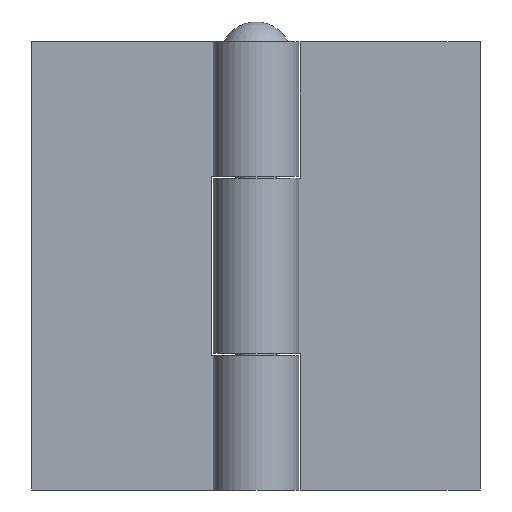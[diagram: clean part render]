
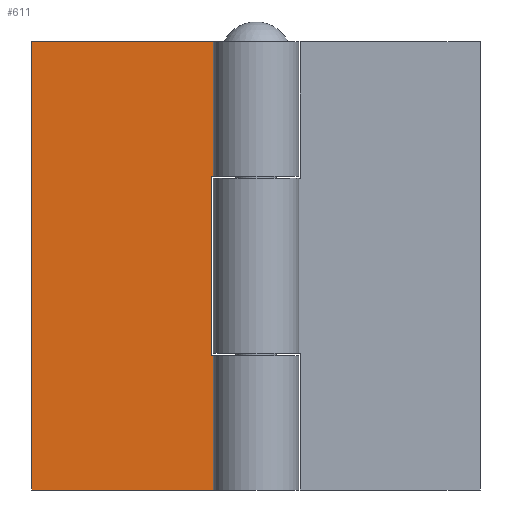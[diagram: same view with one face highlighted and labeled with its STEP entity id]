
A CAD part, front view. The second image highlights one B-rep face of the part: STEP entity #611.
In plain terms, the highlighted planar face has unit normal (0, -1, 0).
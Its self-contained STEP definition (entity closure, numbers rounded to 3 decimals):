
#140=CARTESIAN_POINT('',(-23.452,-22.464,5.0));
#141=VERTEX_POINT('',#140);
#149=CARTESIAN_POINT('',(-23.452,-22.464,-10.0));
#150=VERTEX_POINT('',#149);
#151=CARTESIAN_POINT('',(-23.452,-22.464,-10.0));
#152=DIRECTION('',(0.0,0.0,1.0));
#153=VECTOR('',#152,15.0);
#154=LINE('',#151,#153);
#155=EDGE_CURVE('',#150,#141,#154,.T.);
#224=CARTESIAN_POINT('',(-23.452,-22.464,40.0));
#225=VERTEX_POINT('',#224);
#233=CARTESIAN_POINT('',(-23.452,-22.464,25.0));
#234=VERTEX_POINT('',#233);
#235=CARTESIAN_POINT('',(-23.452,-22.464,25.0));
#236=DIRECTION('',(0.0,0.0,1.0));
#237=VECTOR('',#236,15.0);
#238=LINE('',#235,#237);
#239=EDGE_CURVE('',#234,#225,#238,.T.);
#448=CARTESIAN_POINT('',(-28.402,-22.464,5.0));
#449=VERTEX_POINT('',#448);
#450=CARTESIAN_POINT('',(-28.402,-22.464,25.0));
#451=VERTEX_POINT('',#450);
#452=CARTESIAN_POINT('',(-28.402,-22.464,5.0));
#453=DIRECTION('',(0.0,0.0,1.0));
#454=VECTOR('',#453,20.0);
#455=LINE('',#452,#454);
#456=EDGE_CURVE('',#449,#451,#455,.T.);
#488=CARTESIAN_POINT('',(-28.402,-22.464,25.0));
#489=DIRECTION('',(1.0,0.0,0.0));
#490=VECTOR('',#489,4.95);
#491=LINE('',#488,#490);
#492=EDGE_CURVE('',#451,#234,#491,.T.);
#535=CARTESIAN_POINT('',(-23.452,-22.464,5.0));
#536=DIRECTION('',(-1.0,0.0,0.0));
#537=VECTOR('',#536,4.95);
#538=LINE('',#535,#537);
#539=EDGE_CURVE('',#141,#449,#538,.T.);
#577=CARTESIAN_POINT('',(-23.452,-22.464,-10.0));
#578=DIRECTION('',(0.0,-1.0,0.0));
#579=DIRECTION('',(0.0,0.0,1.0));
#580=AXIS2_PLACEMENT_3D('',#577,#578,#579);
#581=PLANE('',#580);
#582=ORIENTED_EDGE('',*,*,#539,.T.);
#583=ORIENTED_EDGE('',*,*,#456,.T.);
#584=ORIENTED_EDGE('',*,*,#492,.T.);
#585=ORIENTED_EDGE('',*,*,#239,.T.);
#586=CARTESIAN_POINT('',(-48.452,-22.464,40.0));
#587=VERTEX_POINT('',#586);
#588=CARTESIAN_POINT('',(-23.452,-22.464,40.0));
#589=DIRECTION('',(-1.0,0.0,0.0));
#590=VECTOR('',#589,25.0);
#591=LINE('',#588,#590);
#592=EDGE_CURVE('',#225,#587,#591,.T.);
#593=ORIENTED_EDGE('',*,*,#592,.T.);
#594=CARTESIAN_POINT('',(-48.452,-22.464,-10.0));
#595=VERTEX_POINT('',#594);
#596=CARTESIAN_POINT('',(-48.452,-22.464,-10.0));
#597=DIRECTION('',(0.0,0.0,1.0));
#598=VECTOR('',#597,50.0);
#599=LINE('',#596,#598);
#600=EDGE_CURVE('',#595,#587,#599,.T.);
#601=ORIENTED_EDGE('',*,*,#600,.F.);
#602=CARTESIAN_POINT('',(-23.452,-22.464,-10.0));
#603=DIRECTION('',(-1.0,0.0,0.0));
#604=VECTOR('',#603,25.0);
#605=LINE('',#602,#604);
#606=EDGE_CURVE('',#150,#595,#605,.T.);
#607=ORIENTED_EDGE('',*,*,#606,.F.);
#608=ORIENTED_EDGE('',*,*,#155,.T.);
#609=EDGE_LOOP('',(#582,#583,#584,#585,#593,#601,#607,#608));
#610=FACE_OUTER_BOUND('',#609,.T.);
#611=ADVANCED_FACE('',(#610),#581,.T.);
